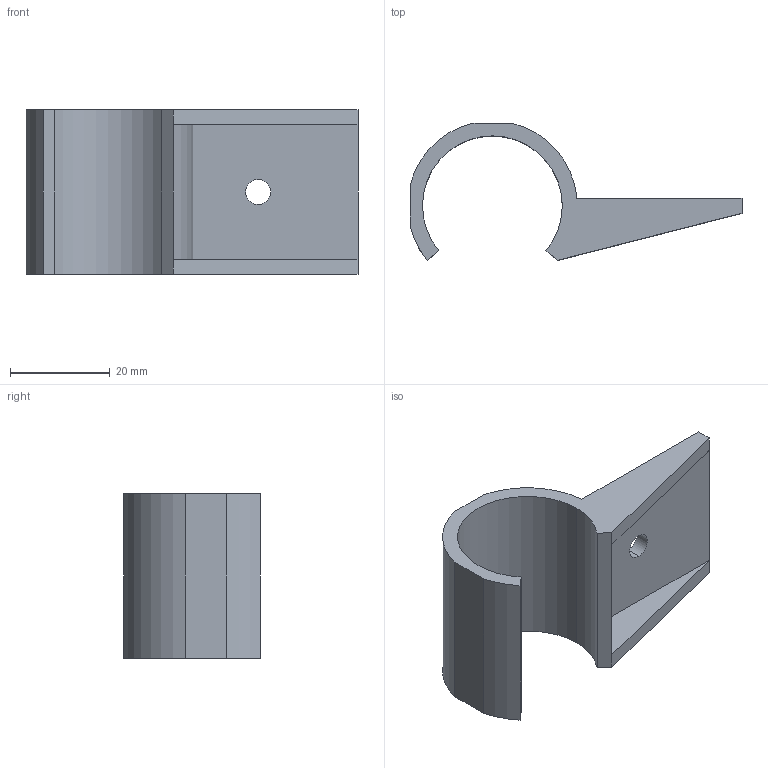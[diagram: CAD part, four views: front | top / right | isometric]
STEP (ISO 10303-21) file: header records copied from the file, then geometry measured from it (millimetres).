
FILE_DESCRIPTION (( 'STEP AP214' ), '1' );
FILE_NAME ('PJ-706.STEP', '2023-10-11T06:28:41', ( 'catia' ), ( 'HP Inc.' ), 'SwSTEP 2.0', 'SolidWorks 2021', '' );
FILE_SCHEMA (( 'AUTOMOTIVE_DESIGN' ));
Length unit declared in the file: millimetre
Products named in the file (1): PJ-706
Bounding box: 66.5 x 27.43 x 33 mm (x, y, z)
Volume: 10896 mm3; surface area: 8204.6 mm2
Topology: 1 solids, 1 shells, 22 faces, 56 edges, 36 vertices
Faces by surface type: plane 13, cylinder 9
Entity records: 704 total; most frequent: DIRECTION 120, CARTESIAN_POINT 115, ORIENTED_EDGE 112, EDGE_CURVE 56, AXIS2_PLACEMENT_3D 41, LINE 38, VECTOR 38, VERTEX_POINT 36
